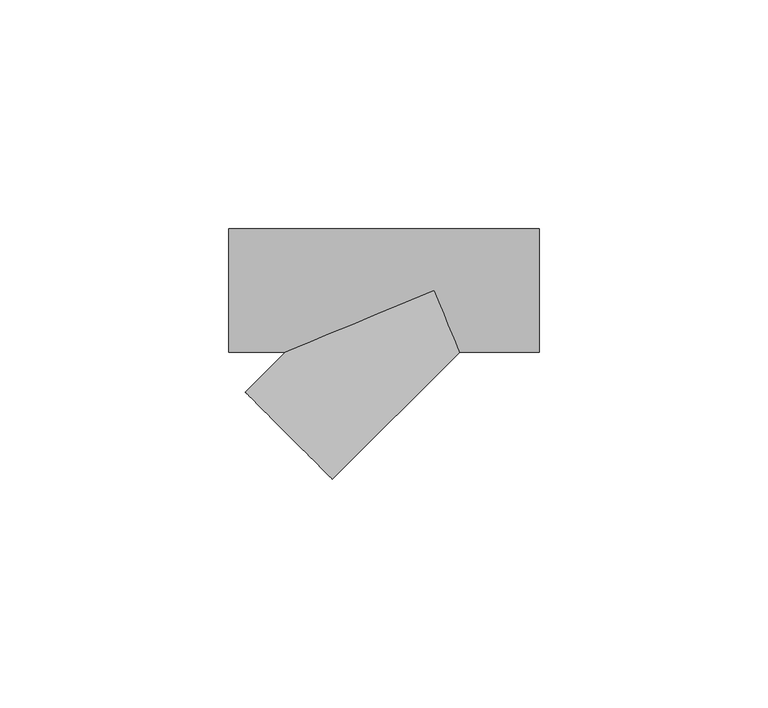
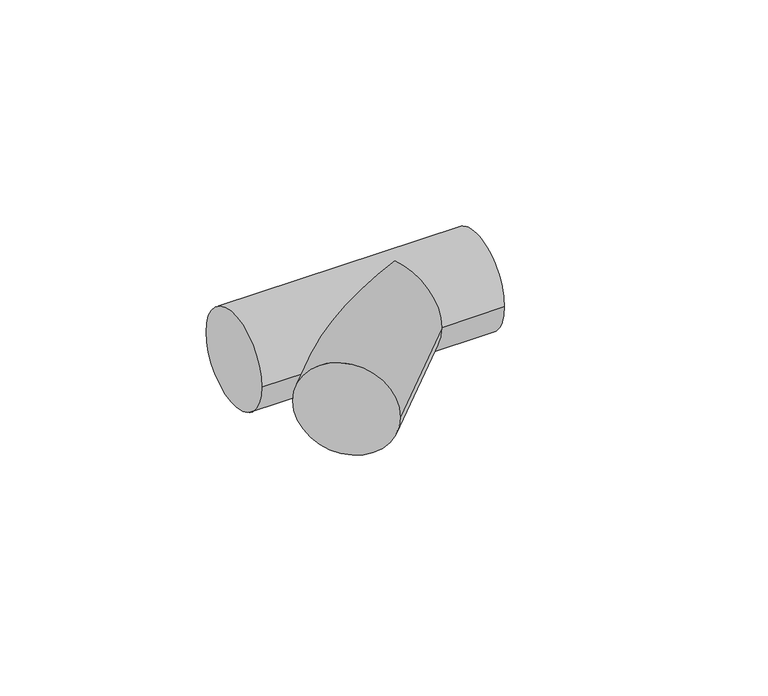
"""IFC4 building model written with IfcOpenShell, lengths in millimetres: pipe fitting geometry, 010513441 : Tés à 45º."""

import ifcopenshell
import ifcopenshell.guid

model = None  # the IFC model being written
_history = None  # IfcOwnerHistory: only IFC2X3 demands one
_inside = {}  # id of a spatial element -> (the spatial element, [elements in it])
_under = {}  # id of a project, library or spatial element -> (it, [spatial elements below it])
_declared = {}  # id of a project -> (the project, [libraries it declares])
_typed = {}  # id of a type object -> (the type object, [elements of that type])
_made_of = {}  # id of a material, layer set ... -> (it, [elements and type objects made of it])


def new_model(schema):
    """Start an empty IFC model of exactly this schema.

    Asked for "IFC4X3", IfcOpenShell would pick the latest addendum, in which some entities
    have other attributes; the version numbers below select the first issue.
    IFC2X3 requires an IfcOwnerHistory on every rooted entity: one is made here for all.
    """
    global model, _history
    if schema == "IFC4X3":
        model = ifcopenshell.file(schema_version=(4, 3, 0, 0))
    else:
        model = ifcopenshell.file(schema=schema)
    _inside.clear()
    _under.clear()
    _declared.clear()
    _typed.clear()
    _made_of.clear()
    _history = None
    if model.schema == "IFC2X3":
        org = make("IfcOrganization", Name="unknown")
        user = make(
            "IfcPersonAndOrganization",
            ThePerson=make("IfcPerson", FamilyName="unknown"),
            TheOrganization=org,
        )
        app = make(
            "IfcApplication",
            ApplicationDeveloper=org,
            Version="unknown",
            ApplicationFullName="unknown",
            ApplicationIdentifier="unknown",
        )
        _history = make(
            "IfcOwnerHistory",
            OwningUser=user,
            OwningApplication=app,
            ChangeAction="ADDED",
            CreationDate=0,
        )
    return model


def make(cls, **values):
    """One entity of the class cls with the attributes given. An attribute that is None is left unset."""
    return model.create_entity(
        cls, **{name: value for name, value in values.items() if value is not None}
    )


def rooted(cls, **values):
    """An entity with a GlobalId (a new one), such as an element, a storey or a relation."""
    return make(cls, GlobalId=ifcopenshell.guid.new(), OwnerHistory=_history, **values)


def si_unit(unit_type, name, prefix=None):
    """IfcSIUnit, for example si_unit("LENGTHUNIT", "METRE", prefix="MILLI")."""
    return make("IfcSIUnit", UnitType=unit_type, Prefix=prefix, Name=name)


def assignment(units):
    """IfcUnitAssignment: the units of a project."""
    return None if units is None else make("IfcUnitAssignment", Units=units)


def point(xyz):
    """IfcCartesianPoint."""
    return None if xyz is None else make("IfcCartesianPoint", Coordinates=xyz)


def direction(xyz):
    """IfcDirection."""
    return None if xyz is None else make("IfcDirection", DirectionRatios=xyz)


def frame(location, z_axis=None, x_axis=None):
    """IfcAxis2Placement3D, a coordinate frame: its origin and axes. An axis left out is left unset."""
    return make(
        "IfcAxis2Placement3D",
        Location=point(location),
        Axis=direction(z_axis),
        RefDirection=direction(x_axis),
    )


def origin():
    """The frame at (0, 0, 0) with its axes left unset."""
    return frame((0.0, 0.0, 0.0))


def place(relative_to, where):
    """IfcLocalPlacement: puts the frame where relative to a parent placement (None: the world)."""
    return make(
        "IfcLocalPlacement", PlacementRelTo=relative_to, RelativePlacement=where
    )


def context(
    kind, dimensions, precision=None, world=None, true_north=None, identifier=None
):
    """IfcGeometricRepresentationContext, for example the 3D "Model" context."""
    return make(
        "IfcGeometricRepresentationContext",
        ContextIdentifier=identifier,
        ContextType=kind,
        CoordinateSpaceDimension=dimensions,
        Precision=precision,
        WorldCoordinateSystem=world,
        TrueNorth=true_north,
    )


def project(units=None, contexts=None):
    """IfcProject with its units and contexts."""
    return rooted(
        "IfcProject",
        Name="project",
        RepresentationContexts=contexts,
        UnitsInContext=assignment(units),
    )


def spatial(cls, under=None, at=None, **own):
    """A site, building, storey or space (cls), placed at a placement, below another one or the project."""
    s = rooted(cls, ObjectPlacement=at, **own)
    if under is not None:
        _under.setdefault(under.id(), (under, []))[1].append(s)
    return s


def circle_curve(where, radius):
    """IfcCircle in the frame where."""
    return make("IfcCircle", Position=where, Radius=radius)


def ellipse_curve(where, semi_axis1, semi_axis2):
    """IfcEllipse in the frame where."""
    return make(
        "IfcEllipse", Position=where, SemiAxis1=semi_axis1, SemiAxis2=semi_axis2
    )


def shape(context_of_items, identifier, shape_type, items):
    """IfcShapeRepresentation: the items that make up one representation, for example the "Body"."""
    return make(
        "IfcShapeRepresentation",
        ContextOfItems=context_of_items,
        RepresentationIdentifier=identifier,
        RepresentationType=shape_type,
        Items=items,
    )


def source(mapping_origin, context_of_items, identifier, shape_type, items):
    """IfcRepresentationMap: a shape defined once, which mapped items show again and again."""
    return make(
        "IfcRepresentationMap",
        MappingOrigin=mapping_origin,
        MappedRepresentation=shape(context_of_items, identifier, shape_type, items),
    )


def transform(
    local_origin,
    x_axis=None,
    y_axis=None,
    z_axis=None,
    scale=None,
    scale2=None,
    scale3=None,
    uniform=True,
):
    """IfcCartesianTransformationOperator3D, or its non-uniform kind. x_axis, y_axis, z_axis: its Axis1, 2, 3."""
    if uniform:
        return make(
            "IfcCartesianTransformationOperator3D",
            Axis1=direction(x_axis),
            Axis2=direction(y_axis),
            LocalOrigin=point(local_origin),
            Scale=scale,
            Axis3=direction(z_axis),
        )
    return make(
        "IfcCartesianTransformationOperator3DnonUniform",
        Axis1=direction(x_axis),
        Axis2=direction(y_axis),
        LocalOrigin=point(local_origin),
        Scale=scale,
        Axis3=direction(z_axis),
        Scale2=scale2,
        Scale3=scale3,
    )


def mapped(mapping_source, mapping_target):
    """IfcMappedItem: shows the shape of a source again, moved by a transform."""
    return make(
        "IfcMappedItem", MappingSource=mapping_source, MappingTarget=mapping_target
    )


def made_of(thing, what):
    """Note that an element or type object is made of a material, layer set ...; save() writes the relation."""
    if what is not None:
        _made_of.setdefault(what.id(), (what, []))[1].append(thing)
    return thing


def element(
    cls,
    number,
    at=None,
    inside=None,
    cuts=None,
    type_object=None,
    material=None,
    context=None,
    identifier="Body",
    shape_type=None,
    held_by="IfcProductDefinitionShape",
    body=None,
    shapes=None,
    **own,
):
    """One element of the class cls, such as IfcWall. Its Tag is "e" and its number.

    at: its placement. inside: the storey or other place that contains it. cuts: it is an
    opening in that element (IfcRelVoidsElement). A single representation is given by context,
    identifier, shape_type and body (its items); several are given by shapes. held_by: the class
    of the entity that holds the representations. save() writes the other relations.
    """
    e = rooted(cls, Tag="e%d" % number, ObjectPlacement=at, **own)
    if body is not None:
        shapes = [shape(context, identifier, shape_type, body)]
    if shapes is not None:
        e.Representation = make(held_by, Representations=shapes)
    if inside is not None:
        _inside.setdefault(inside.id(), (inside, []))[1].append(e)
    if cuts is not None:
        rooted(
            "IfcRelVoidsElement", RelatingBuildingElement=cuts, RelatedOpeningElement=e
        )
    if type_object is not None:
        _typed.setdefault(type_object.id(), (type_object, []))[1].append(e)
    return made_of(e, material)


def aggregate(whole, parts):
    """IfcRelAggregates: a whole, such as a stair, and the parts it consists of."""
    return rooted("IfcRelAggregates", RelatingObject=whole, RelatedObjects=parts)


def save(model, path):
    """Write the relations noted so far, then the file.

    IfcRelAggregates (storeys below a building ...), IfcRelContainedInSpatialStructure (elements
    in a storey), IfcRelDefinesByType, IfcRelAssociatesMaterial and IfcRelDeclares: one each for
    every whole, place, type object, material and project.
    """
    for whole, parts in _under.values():
        aggregate(whole, parts)
    for where, things in _inside.values():
        rooted(
            "IfcRelContainedInSpatialStructure",
            RelatedElements=things,
            RelatingStructure=where,
        )
    for kind, things in _typed.values():
        rooted("IfcRelDefinesByType", RelatedObjects=things, RelatingType=kind)
    for what, things in _made_of.values():
        rooted("IfcRelAssociatesMaterial", RelatedObjects=things, RelatingMaterial=what)
    for by, libraries in _declared.values():
        rooted("IfcRelDeclares", RelatingContext=by, RelatedDefinitions=libraries)
    model.write(path)


def plane_surface(at):
    """IfcPlane: the flat surface through the origin of the frame at, square to its z axis."""
    return make("IfcPlane", Position=at)


def cylinder_surface(at, radius):
    """IfcCylindricalSurface: all points at the distance radius from the z axis of the frame at."""
    return make("IfcCylindricalSurface", Position=at, Radius=radius)


def advanced_brep(points, edges, surfaces, faces):
    """IfcAdvancedBrep: a solid bounded by faces that lie on surfaces and meet in shared edges.

    An edge is (start, end): straight between two places in points (the first is 0);
    or (start, end, curve); or (start, end, curve, False) where it runs against its curve.
    A face is (place in surfaces, loops), or (place, loops, False) where it looks against
    its surface's normal. A loop lists edges by number (the first is 1), with a minus sign
    where the edge is run from its end to its start. The first loop is the outer one.
    """
    corners = [point(p) for p in points]
    vertices = [make("IfcVertexPoint", VertexGeometry=c) for c in corners]
    made = []
    for start, end, *more in edges:
        made.append(
            make(
                "IfcEdgeCurve",
                EdgeStart=vertices[start],
                EdgeEnd=vertices[end],
                EdgeGeometry=more[0] if more else make("IfcPolyline", Points=[corners[start], corners[end]]),
                SameSense=more[1] if len(more) > 1 else True,
            )
        )
    hull = []
    for where, loops, *sense in faces:
        bounds = []
        for j, loop in enumerate(loops):
            ring = [make("IfcOrientedEdge", EdgeElement=made[abs(k) - 1], Orientation=k > 0) for k in loop]
            bounds.append(
                make(
                    "IfcFaceOuterBound" if j == 0 else "IfcFaceBound",
                    Bound=make("IfcEdgeLoop", EdgeList=ring),
                    Orientation=True,
                )
            )
        hull.append(make("IfcAdvancedFace", Bounds=bounds, FaceSurface=surfaces[where], SameSense=sense[0] if sense else True))
    return make("IfcAdvancedBrep", Outer=make("IfcClosedShell", CfsFaces=hull))


def pipe_fitting_845f878d(model_context):
    return source(origin(), model_context, "Body", "AdvancedBrep", [
        advanced_brep(
        [(-45.0, -13.5, 0.0), (-45.0, 13.5, 0.0), (23.0, -13.5, 0.0), (23.0, 13.5, 0.0), (-32.5918831, -13.5, 0.0), (0.0, 0.0, 13.5), (5.5918831, -13.5, 0.0), (0.0, 0.0, -13.5), (-41.3657467, -22.2738636, 0.0), (-22.2738636, -41.3657467, 0.0)],
        [
            (0, 1, circle_curve(frame((-45.0, 0.0, 0.0), z_axis=(-1.0, 0.0, 0.0), x_axis=(0.0, 1.0, 0.0)), 13.5)),
            (1, 0, circle_curve(frame((-45.0, 0.0, 0.0), z_axis=(-1.0, 0.0, 0.0), x_axis=(0.0, 1.0, 0.0)), 13.5)),
            (2, 3, circle_curve(frame((23.0, 0.0, 0.0), z_axis=(1.0, 0.0, 0.0), x_axis=(0.0, 1.0, 0.0)), 13.5)),
            (3, 2, circle_curve(frame((23.0, 0.0, 0.0), z_axis=(1.0, 0.0, 0.0), x_axis=(0.0, 1.0, 0.0)), 13.5)),
            (0, 4),
            (4, 5, ellipse_curve(frame((0.0, 0.0, 0.0), z_axis=(-0.3826834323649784, 0.9238795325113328, 0.0), x_axis=(-0.9238795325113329, -0.38268343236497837, 0.0)), 35.2772001, 13.5)),
            (5, 6, ellipse_curve(frame((0.0, 0.0, 0.0), z_axis=(0.9238795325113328, 0.38268343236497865, 0.0), x_axis=(-0.3826834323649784, 0.9238795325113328, 0.0)), 14.6122947, 13.5)),
            (6, 2),
            (3, 1),
            (6, 7, ellipse_curve(frame((0.0, 0.0, 0.0), z_axis=(0.9238795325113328, 0.38268343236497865, 0.0), x_axis=(-0.3826834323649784, 0.9238795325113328, 0.0)), 14.6122947, 13.5)),
            (7, 4, ellipse_curve(frame((0.0, 0.0, 0.0), z_axis=(-0.3826834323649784, 0.9238795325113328, 0.0), x_axis=(-0.9238795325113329, -0.38268343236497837, 0.0)), 35.2772001, 13.5)),
            (8, 9, circle_curve(frame((-31.8198052, -31.8198052, 0.0), z_axis=(-0.7071067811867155, -0.7071067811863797, 0.0), x_axis=(0.7071067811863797, -0.7071067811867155, 0.0)), 13.5)),
            (9, 8, circle_curve(frame((-31.8198052, -31.8198052, 0.0), z_axis=(-0.7071067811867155, -0.7071067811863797, 0.0), x_axis=(0.7071067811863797, -0.7071067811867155, 0.0)), 13.5)),
            (9, 6),
            (4, 8),
        ],
        [
            plane_surface(frame((-45.0, 0.0, 0.0), z_axis=(-1.0, 0.0, 0.0), x_axis=(0.0, 0.0, 1.0))),
            plane_surface(frame((23.0, 0.0, 0.0), z_axis=(1.0, 0.0, 0.0), x_axis=(0.0, 0.0, 1.0))),
            cylinder_surface(frame((-45.0, 0.0, 0.0), z_axis=(-1.0, 0.0, 0.0), x_axis=(0.0, 1.0, 0.0)), 13.5),
            plane_surface(frame((-31.8198052, -31.8198052, 0.0), z_axis=(-0.7071067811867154, -0.7071067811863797, 0.0), x_axis=(0.0, 0.0, 1.0))),
            cylinder_surface(frame((0.0, 0.0, 0.0), z_axis=(0.7071067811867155, 0.7071067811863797, 0.0), x_axis=(0.7071067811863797, -0.7071067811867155, 0.0)), 13.5),
        ],
        [
            (0, [[1, 2]]),
            (1, [[3, 4]]),
            (2, [[-1, 5, 6, 7, 8, -4, 9]]),
            (2, [[-2, -9, -3, -8, 10, 11, -5]]),
            (3, [[12, 13]]),
            (4, [[-13, 14, -7, -6, 15]]),
            (4, [[-12, -15, -11, -10, -14]]),
        ],
    ),
    ])


if __name__ == "__main__":
    model = new_model("IFC4")
    model_context = context("Model", 3, world=origin())
    ifc_project = project(units=[si_unit("LENGTHUNIT", "METRE", prefix="MILLI")], contexts=[model_context])
    site = spatial("IfcSite", under=ifc_project)
    building = spatial("IfcBuilding", under=site)
    placement = place(None, origin())
    pipe_fitting_shape = pipe_fitting_845f878d(model_context)
    element("IfcPipeFitting", 1, ObjectType="010513441 : Tés à 45º", at=placement, inside=building, context=model_context, shape_type="MappedRepresentation", body=[
        mapped(pipe_fitting_shape, transform((0.0, 0.0, 0.0), x_axis=(1.0, 0.0, 0.0), y_axis=(0.0, 1.0, 0.0), z_axis=(0.0, 0.0, 1.0))),
    ])
    save(model, "model.ifc")
